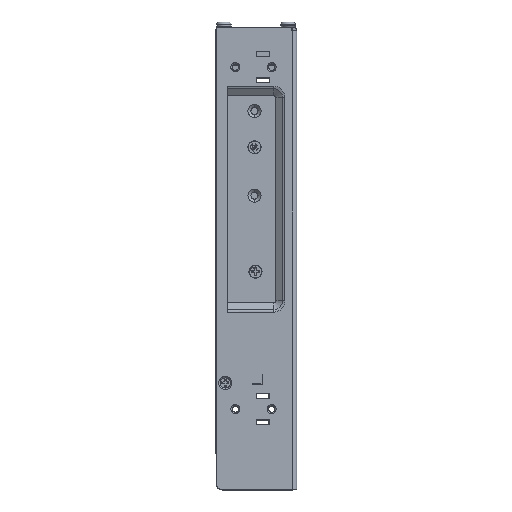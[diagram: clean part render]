
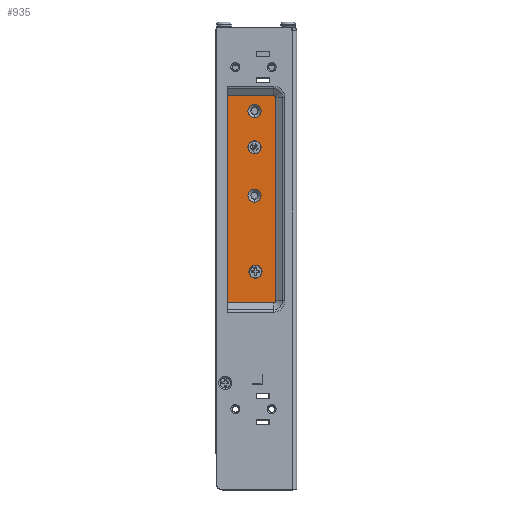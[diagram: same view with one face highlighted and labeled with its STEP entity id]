
A CAD part, top view. The second image highlights one B-rep face of the part: STEP entity #935.
In plain terms, the highlighted planar face has unit normal (0, 0, 1).
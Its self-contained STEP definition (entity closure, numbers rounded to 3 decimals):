
#935=ADVANCED_FACE('',(#4660,#4218,#4219,#4220,#4221),#57400,.T.);
#4218=FACE_BOUND('',#8231,.T.);
#4219=FACE_BOUND('',#8232,.T.);
#4220=FACE_BOUND('',#8233,.T.);
#4221=FACE_BOUND('',#8234,.T.);
#4660=FACE_OUTER_BOUND('',#8230,.T.);
#8230=EDGE_LOOP('',(#13171,#13172,#13173,#13174,#13175,#13176));
#8231=EDGE_LOOP('',(#13177,#13178));
#8232=EDGE_LOOP('',(#13179,#13180));
#8233=EDGE_LOOP('',(#13181,#13182));
#8234=EDGE_LOOP('',(#13183,#13184));
#13171=ORIENTED_EDGE('',*,*,#31477,.T.);
#13172=ORIENTED_EDGE('',*,*,#31479,.F.);
#13173=ORIENTED_EDGE('',*,*,#31497,.F.);
#13174=ORIENTED_EDGE('',*,*,#31478,.F.);
#13175=ORIENTED_EDGE('',*,*,#31480,.F.);
#13176=ORIENTED_EDGE('',*,*,#31452,.T.);
#13177=ORIENTED_EDGE('',*,*,#31502,.F.);
#13178=ORIENTED_EDGE('',*,*,#31505,.F.);
#13179=ORIENTED_EDGE('',*,*,#31512,.F.);
#13180=ORIENTED_EDGE('',*,*,#31515,.F.);
#13181=ORIENTED_EDGE('',*,*,#31522,.F.);
#13182=ORIENTED_EDGE('',*,*,#31524,.F.);
#13183=ORIENTED_EDGE('',*,*,#31533,.F.);
#13184=ORIENTED_EDGE('',*,*,#31535,.F.);
#31452=EDGE_CURVE('',#50468,#50469,#42777,.T.);
#31477=EDGE_CURVE('',#50469,#50481,#40584,.T.);
#31478=EDGE_CURVE('',#50482,#50483,#42796,.T.);
#31479=EDGE_CURVE('',#50484,#50481,#42797,.T.);
#31480=EDGE_CURVE('',#50468,#50482,#42798,.T.);
#31497=EDGE_CURVE('',#50483,#50484,#40597,.T.);
#31502=EDGE_CURVE('',#50485,#50486,#40600,.T.);
#31505=EDGE_CURVE('',#50486,#50485,#40602,.T.);
#31512=EDGE_CURVE('',#50487,#50488,#40606,.T.);
#31515=EDGE_CURVE('',#50488,#50487,#40608,.T.);
#31522=EDGE_CURVE('',#50489,#50490,#40612,.T.);
#31524=EDGE_CURVE('',#50490,#50489,#40613,.T.);
#31533=EDGE_CURVE('',#50491,#50492,#40618,.T.);
#31535=EDGE_CURVE('',#50492,#50491,#40619,.T.);
#40584=(
BOUNDED_CURVE()
B_SPLINE_CURVE(2,(#72107,#72108,#72109),.UNSPECIFIED.,.F.,.F.)
B_SPLINE_CURVE_WITH_KNOTS((3,3),(2.199,3.665),
 .UNSPECIFIED.)
CURVE()
GEOMETRIC_REPRESENTATION_ITEM()
RATIONAL_B_SPLINE_CURVE((1.,0.707,1.))
REPRESENTATION_ITEM('')
);
#40597=(
BOUNDED_CURVE()
B_SPLINE_CURVE(2,(#72160,#72161,#72162),.UNSPECIFIED.,.F.,.F.)
B_SPLINE_CURVE_WITH_KNOTS((3,3),(-3.665,-2.199),
 .UNSPECIFIED.)
CURVE()
GEOMETRIC_REPRESENTATION_ITEM()
RATIONAL_B_SPLINE_CURVE((1.,0.707,1.))
REPRESENTATION_ITEM('')
);
#40600=(
BOUNDED_CURVE()
B_SPLINE_CURVE(2,(#72177,#72178,#72179,#72180,#72181),.UNSPECIFIED.,.F.,
 .F.)
B_SPLINE_CURVE_WITH_KNOTS((3,2,3),(-10.21,-5.105,
0.),.UNSPECIFIED.)
CURVE()
GEOMETRIC_REPRESENTATION_ITEM()
RATIONAL_B_SPLINE_CURVE((1.,0.707,1.,0.707,1.))
REPRESENTATION_ITEM('')
);
#40602=(
BOUNDED_CURVE()
B_SPLINE_CURVE(2,(#72189,#72190,#72191,#72192,#72193),.UNSPECIFIED.,.F.,
 .F.)
B_SPLINE_CURVE_WITH_KNOTS((3,2,3),(-10.21,-5.105,
0.),.UNSPECIFIED.)
CURVE()
GEOMETRIC_REPRESENTATION_ITEM()
RATIONAL_B_SPLINE_CURVE((1.,0.707,1.,0.707,1.))
REPRESENTATION_ITEM('')
);
#40606=(
BOUNDED_CURVE()
B_SPLINE_CURVE(2,(#72215,#72216,#72217,#72218,#72219),.UNSPECIFIED.,.F.,
 .F.)
B_SPLINE_CURVE_WITH_KNOTS((3,2,3),(-10.21,-5.105,
0.),.UNSPECIFIED.)
CURVE()
GEOMETRIC_REPRESENTATION_ITEM()
RATIONAL_B_SPLINE_CURVE((1.,0.707,1.,0.707,1.))
REPRESENTATION_ITEM('')
);
#40608=(
BOUNDED_CURVE()
B_SPLINE_CURVE(2,(#72227,#72228,#72229,#72230,#72231),.UNSPECIFIED.,.F.,
 .F.)
B_SPLINE_CURVE_WITH_KNOTS((3,2,3),(-10.21,-5.105,
0.),.UNSPECIFIED.)
CURVE()
GEOMETRIC_REPRESENTATION_ITEM()
RATIONAL_B_SPLINE_CURVE((1.,0.707,1.,0.707,1.))
REPRESENTATION_ITEM('')
);
#40612=(
BOUNDED_CURVE()
B_SPLINE_CURVE(2,(#72253,#72254,#72255,#72256,#72257),.UNSPECIFIED.,.F.,
 .F.)
B_SPLINE_CURVE_WITH_KNOTS((3,2,3),(-10.21,-5.105,0.),
 .UNSPECIFIED.)
CURVE()
GEOMETRIC_REPRESENTATION_ITEM()
RATIONAL_B_SPLINE_CURVE((1.,0.707,1.,0.707,1.))
REPRESENTATION_ITEM('')
);
#40613=(
BOUNDED_CURVE()
B_SPLINE_CURVE(2,(#72260,#72261,#72262,#72263,#72264),.UNSPECIFIED.,.F.,
 .F.)
B_SPLINE_CURVE_WITH_KNOTS((3,2,3),(-10.21,-5.105,0.),
 .UNSPECIFIED.)
CURVE()
GEOMETRIC_REPRESENTATION_ITEM()
RATIONAL_B_SPLINE_CURVE((1.,0.707,1.,0.707,1.))
REPRESENTATION_ITEM('')
);
#40618=(
BOUNDED_CURVE()
B_SPLINE_CURVE(2,(#72293,#72294,#72295,#72296,#72297),.UNSPECIFIED.,.F.,
 .F.)
B_SPLINE_CURVE_WITH_KNOTS((3,2,3),(-10.21,-5.105,
0.),.UNSPECIFIED.)
CURVE()
GEOMETRIC_REPRESENTATION_ITEM()
RATIONAL_B_SPLINE_CURVE((1.,0.707,1.,0.707,1.))
REPRESENTATION_ITEM('')
);
#40619=(
BOUNDED_CURVE()
B_SPLINE_CURVE(2,(#72300,#72301,#72302,#72303,#72304),.UNSPECIFIED.,.F.,
 .F.)
B_SPLINE_CURVE_WITH_KNOTS((3,2,3),(-10.21,-5.105,
0.),.UNSPECIFIED.)
CURVE()
GEOMETRIC_REPRESENTATION_ITEM()
RATIONAL_B_SPLINE_CURVE((1.,0.707,1.,0.707,1.))
REPRESENTATION_ITEM('')
);
#42777=B_SPLINE_CURVE_WITH_KNOTS('',1,(#72051,#72052),.UNSPECIFIED.,.F.,
 .F.,(2,2),(0.,23.),.UNSPECIFIED.);
#42796=B_SPLINE_CURVE_WITH_KNOTS('',1,(#72110,#72111),.UNSPECIFIED.,.F.,
 .F.,(2,2),(0.,23.),.UNSPECIFIED.);
#42797=B_SPLINE_CURVE_WITH_KNOTS('',1,(#72112,#72113),.UNSPECIFIED.,.F.,
 .F.,(2,2),(0.,101.),.UNSPECIFIED.);
#42798=B_SPLINE_CURVE_WITH_KNOTS('',1,(#72114,#72115),.UNSPECIFIED.,.F.,
 .F.,(2,2),(-102.867,0.),.UNSPECIFIED.);
#50468=VERTEX_POINT('',#70036);
#50469=VERTEX_POINT('',#70037);
#50481=VERTEX_POINT('',#70049);
#50482=VERTEX_POINT('',#70050);
#50483=VERTEX_POINT('',#70051);
#50484=VERTEX_POINT('',#70052);
#50485=VERTEX_POINT('',#70053);
#50486=VERTEX_POINT('',#70054);
#50487=VERTEX_POINT('',#70055);
#50488=VERTEX_POINT('',#70056);
#50489=VERTEX_POINT('',#70057);
#50490=VERTEX_POINT('',#70058);
#50491=VERTEX_POINT('',#70059);
#50492=VERTEX_POINT('',#70060);
#57400=PLANE('',#60088);
#60088=AXIS2_PLACEMENT_3D('',#67722,#62223,$);
#62223=DIRECTION('',(0.,0.,1.));
#67722=CARTESIAN_POINT('',(-35.213,-32.639,60.5));
#70036=CARTESIAN_POINT('',(-32.5,-22.033,60.5));
#70037=CARTESIAN_POINT('',(-9.5,-22.033,60.5));
#70049=CARTESIAN_POINT('',(-8.567,-21.1,60.5));
#70050=CARTESIAN_POINT('',(-32.5,80.833,60.5));
#70051=CARTESIAN_POINT('',(-9.5,80.833,60.5));
#70052=CARTESIAN_POINT('',(-8.567,79.9,60.5));
#70053=CARTESIAN_POINT('',(-18.5,-9.85,60.5));
#70054=CARTESIAN_POINT('',(-18.5,-3.35,60.5));
#70055=CARTESIAN_POINT('',(-19.,27.95,60.5));
#70056=CARTESIAN_POINT('',(-19.,34.45,60.5));
#70057=CARTESIAN_POINT('',(-19.,51.95,60.5));
#70058=CARTESIAN_POINT('',(-19.,58.45,60.5));
#70059=CARTESIAN_POINT('',(-19.,69.95,60.5));
#70060=CARTESIAN_POINT('',(-19.,76.45,60.5));
#72051=CARTESIAN_POINT('',(-32.5,-22.033,60.5));
#72052=CARTESIAN_POINT('',(-9.5,-22.033,60.5));
#72107=CARTESIAN_POINT('',(-9.5,-22.033,60.5));
#72108=CARTESIAN_POINT('',(-8.567,-22.033,60.5));
#72109=CARTESIAN_POINT('',(-8.567,-21.1,60.5));
#72110=CARTESIAN_POINT('',(-32.5,80.833,60.5));
#72111=CARTESIAN_POINT('',(-9.5,80.833,60.5));
#72112=CARTESIAN_POINT('',(-8.567,79.9,60.5));
#72113=CARTESIAN_POINT('',(-8.567,-21.1,60.5));
#72114=CARTESIAN_POINT('',(-32.5,-22.033,60.5));
#72115=CARTESIAN_POINT('',(-32.5,80.833,60.5));
#72160=CARTESIAN_POINT('',(-9.5,80.833,60.5));
#72161=CARTESIAN_POINT('',(-8.567,80.833,60.5));
#72162=CARTESIAN_POINT('',(-8.567,79.9,60.5));
#72177=CARTESIAN_POINT('',(-18.5,-9.85,60.5));
#72178=CARTESIAN_POINT('',(-15.25,-9.85,60.5));
#72179=CARTESIAN_POINT('',(-15.25,-6.6,60.5));
#72180=CARTESIAN_POINT('',(-15.25,-3.35,60.5));
#72181=CARTESIAN_POINT('',(-18.5,-3.35,60.5));
#72189=CARTESIAN_POINT('',(-18.5,-3.35,60.5));
#72190=CARTESIAN_POINT('',(-21.75,-3.35,60.5));
#72191=CARTESIAN_POINT('',(-21.75,-6.6,60.5));
#72192=CARTESIAN_POINT('',(-21.75,-9.85,60.5));
#72193=CARTESIAN_POINT('',(-18.5,-9.85,60.5));
#72215=CARTESIAN_POINT('',(-19.,27.95,60.5));
#72216=CARTESIAN_POINT('',(-15.75,27.95,60.5));
#72217=CARTESIAN_POINT('',(-15.75,31.2,60.5));
#72218=CARTESIAN_POINT('',(-15.75,34.45,60.5));
#72219=CARTESIAN_POINT('',(-19.,34.45,60.5));
#72227=CARTESIAN_POINT('',(-19.,34.45,60.5));
#72228=CARTESIAN_POINT('',(-22.25,34.45,60.5));
#72229=CARTESIAN_POINT('',(-22.25,31.2,60.5));
#72230=CARTESIAN_POINT('',(-22.25,27.95,60.5));
#72231=CARTESIAN_POINT('',(-19.,27.95,60.5));
#72253=CARTESIAN_POINT('',(-19.,51.95,60.5));
#72254=CARTESIAN_POINT('',(-15.75,51.95,60.5));
#72255=CARTESIAN_POINT('',(-15.75,55.2,60.5));
#72256=CARTESIAN_POINT('',(-15.75,58.45,60.5));
#72257=CARTESIAN_POINT('',(-19.,58.45,60.5));
#72260=CARTESIAN_POINT('',(-19.,58.45,60.5));
#72261=CARTESIAN_POINT('',(-22.25,58.45,60.5));
#72262=CARTESIAN_POINT('',(-22.25,55.2,60.5));
#72263=CARTESIAN_POINT('',(-22.25,51.95,60.5));
#72264=CARTESIAN_POINT('',(-19.,51.95,60.5));
#72293=CARTESIAN_POINT('',(-19.,69.95,60.5));
#72294=CARTESIAN_POINT('',(-15.75,69.95,60.5));
#72295=CARTESIAN_POINT('',(-15.75,73.2,60.5));
#72296=CARTESIAN_POINT('',(-15.75,76.45,60.5));
#72297=CARTESIAN_POINT('',(-19.,76.45,60.5));
#72300=CARTESIAN_POINT('',(-19.,76.45,60.5));
#72301=CARTESIAN_POINT('',(-22.25,76.45,60.5));
#72302=CARTESIAN_POINT('',(-22.25,73.2,60.5));
#72303=CARTESIAN_POINT('',(-22.25,69.95,60.5));
#72304=CARTESIAN_POINT('',(-19.,69.95,60.5));
